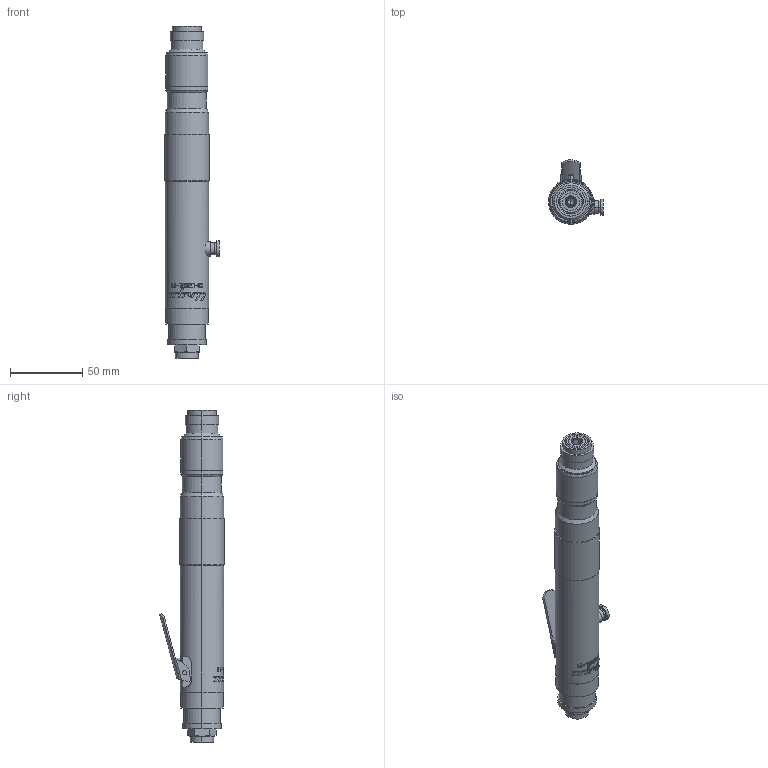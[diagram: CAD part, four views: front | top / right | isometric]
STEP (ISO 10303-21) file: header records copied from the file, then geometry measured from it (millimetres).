
FILE_DESCRIPTION (( 'STEP AP203' ), '1' );
FILE_NAME ('US-LT30BL-11.STEP', '2006-03-22T04:01:48', ( '' ), ( '' ), 'SwSTEP 2.0', 'SolidWorks 2003240', '' );
FILE_SCHEMA (( 'CONFIG_CONTROL_DESIGN' ));
Length unit declared in the file: millimetre
Products named in the file (9): 8930561_US-LT30BL-11_蹬怮椔; 4661075_US-LT30BL-11_蹬怮椔; US-LT30BL-11; 4713192_US-LT30BL-11_蹬怮椔; 4715676_US-LT30BL-11_蹬怮椔; 4623697_US-LT30BL-11_蹬怮椔; 4690255_US-LT30BL-11_蹬怮椔; 4691145_US-LT30BL-11_蹬怮椔; 9810020_US-LT30BL-11_蹬怮椔
Assembly tree (8 placements, depth 2):
  US-LT30BL-11
    9810020_US-LT30BL-11_蹬怮椔
    4691145_US-LT30BL-11_蹬怮椔
    4715676_US-LT30BL-11_蹬怮椔
    4713192_US-LT30BL-11_蹬怮椔
    8930561_US-LT30BL-11_蹬怮椔
    4623697_US-LT30BL-11_蹬怮椔
    4690255_US-LT30BL-11_蹬怮椔
    4661075_US-LT30BL-11_蹬怮椔
Bounding box: 38 x 44.76 x 229.5 mm (x, y, z)
Volume: 144833.3 mm3; surface area: 32348.9 mm2
Topology: 8 solids, 8 shells, 461 faces, 1145 edges, 743 vertices
Faces by surface type: plane 169, cylinder 163, bspline 95, cone 30, sphere 4
Entity records: 20725 total; most frequent: CARTESIAN_POINT 9594, ORIENTED_EDGE 2276, DIRECTION 1828, EDGE_CURVE 1138, VERTEX_POINT 740, AXIS2_PLACEMENT_3D 678, EDGE_LOOP 516, LINE 472
